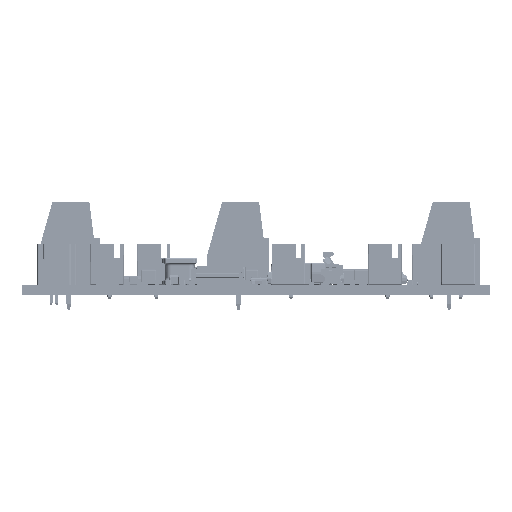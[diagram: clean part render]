
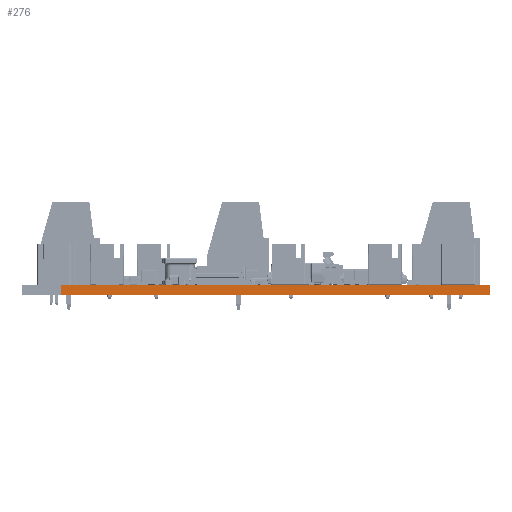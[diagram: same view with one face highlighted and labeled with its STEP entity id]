
A CAD part, left-side view. The second image highlights one B-rep face of the part: STEP entity #276.
In plain terms, the highlighted planar face has unit normal (-1, 0, 0).
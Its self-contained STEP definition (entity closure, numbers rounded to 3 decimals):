
#83 = EDGE_CURVE('',#84,#86,#88,.T.);
#84 = VERTEX_POINT('',#85);
#85 = CARTESIAN_POINT('',(0.013,73.287,0.));
#86 = VERTEX_POINT('',#87);
#87 = CARTESIAN_POINT('',(0.013,73.287,    1.694));
#88 = LINE('',#89,#90);
#89 = CARTESIAN_POINT('',(0.013,73.287,0.));
#90 = VECTOR('',#91,1.);
#91 = DIRECTION('',(0.,0.,1.));
#251 = VERTEX_POINT('',#252);
#252 = CARTESIAN_POINT('',(0.013,0.013,    1.694));
#258 = EDGE_CURVE('',#259,#251,#261,.T.);
#259 = VERTEX_POINT('',#260);
#260 = CARTESIAN_POINT('',(0.013,0.013,0.));
#261 = LINE('',#262,#263);
#262 = CARTESIAN_POINT('',(0.013,0.013,0.));
#263 = VECTOR('',#264,1.);
#264 = DIRECTION('',(0.,0.,1.));
#276 = ADVANCED_FACE('',(#277),#293,.T.);
#277 = FACE_BOUND('',#278,.T.);
#278 = EDGE_LOOP('',(#279,#280,#286,#287));
#279 = ORIENTED_EDGE('',*,*,#258,.T.);
#280 = ORIENTED_EDGE('',*,*,#281,.T.);
#281 = EDGE_CURVE('',#251,#86,#282,.T.);
#282 = LINE('',#283,#284);
#283 = CARTESIAN_POINT('',(0.013,0.013,    1.694));
#284 = VECTOR('',#285,1.);
#285 = DIRECTION('',(0.,1.,0.));
#286 = ORIENTED_EDGE('',*,*,#83,.F.);
#287 = ORIENTED_EDGE('',*,*,#288,.F.);
#288 = EDGE_CURVE('',#259,#84,#289,.T.);
#289 = LINE('',#290,#291);
#290 = CARTESIAN_POINT('',(0.013,0.013,0.));
#291 = VECTOR('',#292,1.);
#292 = DIRECTION('',(0.,1.,0.));
#293 = PLANE('',#294);
#294 = AXIS2_PLACEMENT_3D('',#295,#296,#297);
#295 = CARTESIAN_POINT('',(0.013,0.013,0.));
#296 = DIRECTION('',(-1.,0.,0.));
#297 = DIRECTION('',(0.,1.,0.));
